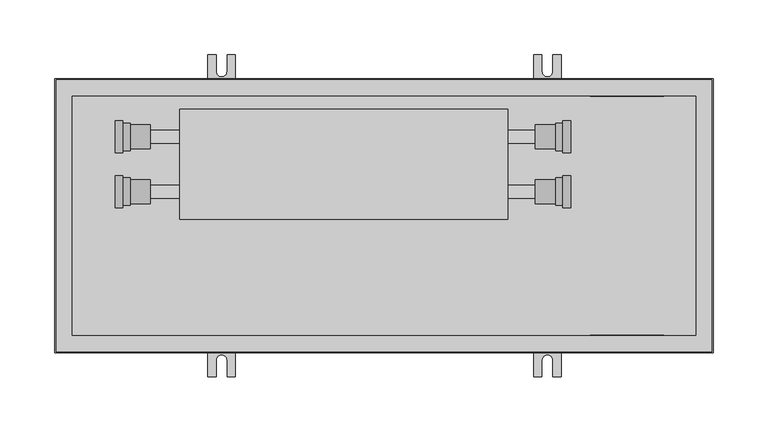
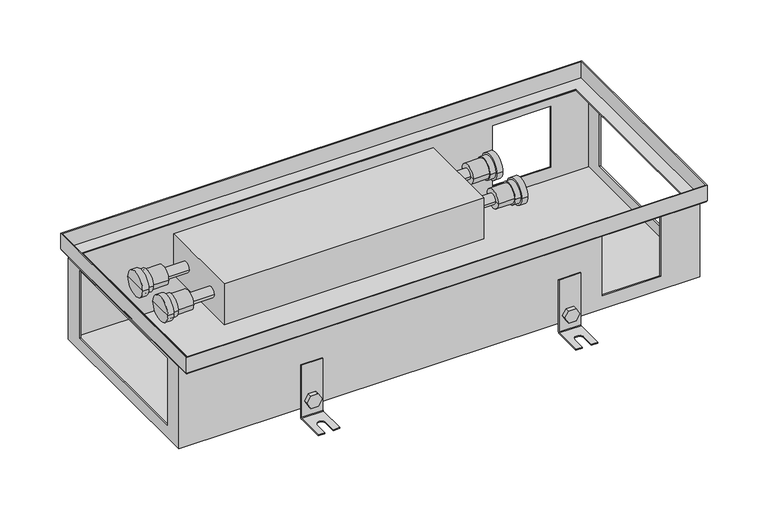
"""IFC4 building model written with IfcOpenShell, lengths in millimetres: proxy geometry, TECHNO_Конвектор встраиваемый_Usual_KVP-250_85-105-120 : KVP 250-120."""

from ifc_helpers import new_model, si_unit, point, frame, frame_2d, origin, place, context, project, spatial, polyline, circle_curve, ellipse_curve, trimmed, segment, composite_curve, outline, extrude, faceted_brep, source, transform, mapped, element, save
from ifc_brep_helpers import plane_surface, cylinder_surface, revolved_surface, advanced_brep


def mechanical_equipment_f0117539(model_context):
    return source(origin(), model_context, "Body", "SolidModel", [
        extrude(outline(composite_curve([segment(trimmed(circle_curve(frame_2d((-110.5, 449.0)), 7.5), [point((-110.5, 441.5))], [point((-110.5, 456.5))], False, "CARTESIAN"), True, "CONTINUOUS"), segment(trimmed(circle_curve(frame_2d((-110.5, 449.0)), 7.5), [point((-110.5, 456.5))], [point((-110.5, 441.5))], False, "CARTESIAN"), True, "CONTINUOUS")], self_intersect=False)), frame((0.0, 110.2, 0.0), z_axis=(0.0, 1.0, 0.0), x_axis=(0.0, 0.0, 1.0)), (0.0, 0.0, 1.0), 1.5),
        extrude(outline(polyline([(-110.5, 440.339746), (-118.0, 444.669873), (-118.0, 453.330127), (-110.5, 457.660254), (-103.0, 453.330127), (-103.0, 444.669873), (-110.5, 440.339746)])), frame((0.0, 112.9, 0.0), z_axis=(0.0, 1.0, 0.0), x_axis=(0.0, 0.0, 1.0)), (0.0, 0.0, 1.0), 5.1),
        advanced_brep(
        [(461.5, 112.9, -65.5), (461.5, 111.7, -65.5), (461.5, 111.7, -128.5), (461.5, 113.7, -130.5), (461.5, 146.7, -130.5), (461.5, 146.7, -129.3), (461.5, 113.7, -129.3), (461.5, 112.9, -128.5), (436.5, 112.9, -65.5), (436.5, 112.9, -128.5), (436.5, 113.7, -129.3), (436.5, 146.7, -129.3), (436.5, 146.7, -130.5), (436.5, 113.7, -130.5), (436.5, 111.7, -128.5), (436.5, 111.7, -65.5), (454.0, 146.7, -129.3), (454.0, 131.7, -129.3), (444.0, 131.7, -129.3), (444.0, 146.7, -129.3), (444.0, 146.7, -130.5), (454.0, 146.7, -130.5), (444.0, 131.7, -130.5), (454.0, 131.7, -130.5)],
        [
            (0, 1),
            (1, 2),
            (2, 3, circle_curve(frame((461.5, 113.7, -128.5), z_axis=(1.0, 0.0, 0.0), x_axis=(0.0, 1.0, 0.0)), 2.0)),
            (3, 4),
            (4, 5),
            (5, 6),
            (6, 7, circle_curve(frame((461.5, 113.7, -128.5), z_axis=(-1.0, 0.0, 0.0), x_axis=(0.0, 1.0, 0.0)), 0.8)),
            (7, 0),
            (8, 9),
            (9, 10, circle_curve(frame((436.5, 113.7, -128.5), z_axis=(1.0, 0.0, 0.0), x_axis=(0.0, 1.0, 0.0)), 0.8)),
            (10, 11),
            (11, 12),
            (12, 13),
            (13, 14, circle_curve(frame((436.5, 113.7, -128.5), z_axis=(-1.0, 0.0, 0.0), x_axis=(0.0, 1.0, 0.0)), 2.0)),
            (14, 15),
            (15, 8),
            (7, 9),
            (8, 0),
            (6, 10),
            (5, 16),
            (16, 17),
            (17, 18, circle_curve(frame((449.0, 131.7, -129.3), z_axis=(0.0, 0.0, -1.0), x_axis=(1.0, 0.0, 0.0)), 5.0)),
            (18, 19),
            (19, 11),
            (19, 20),
            (20, 12),
            (4, 21),
            (21, 16),
            (3, 13),
            (20, 22),
            (22, 23, circle_curve(frame((449.0, 131.7, -130.5), z_axis=(0.0, 0.0, 1.0), x_axis=(1.0, 0.0, 0.0)), 5.0)),
            (23, 21),
            (2, 14),
            (1, 15),
            (18, 22),
            (23, 17),
        ],
        [
            plane_surface(frame((461.5, 112.9, -65.5), z_axis=(1.0, 0.0, 0.0), x_axis=(0.0, 0.0, -1.0))),
            plane_surface(frame((436.5, 112.9, -65.5), z_axis=(-1.0, 0.0, 0.0), x_axis=(0.0, 0.0, 1.0))),
            plane_surface(frame((461.5, 112.9, -65.5), z_axis=(0.0, 1.0, 0.0), x_axis=(-1.0, 0.0, 0.0))),
            revolved_surface(polyline([(436.5, 114.5, -128.5), (461.5, 114.5, -128.5)]), (436.5, 113.7, -128.5), (-1.0, 0.0, 0.0)),
            plane_surface(frame((461.5, 113.7, -129.3), z_axis=(0.0, 0.0, 1.0), x_axis=(-1.0, 0.0, 0.0))),
            plane_surface(frame((461.5, 146.7, -129.3), z_axis=(0.0, 1.0, 0.0), x_axis=(-1.0, 0.0, 0.0))),
            plane_surface(frame((461.5, 146.7, -130.5), z_axis=(0.0, 0.0, -1.0), x_axis=(-1.0, 0.0, 0.0))),
            cylinder_surface(frame((436.5, 113.7, -128.5), z_axis=(1.0, 0.0, 0.0), x_axis=(0.0, 1.0, 0.0)), 2.0),
            plane_surface(frame((461.5, 111.7, -128.5), z_axis=(0.0, -1.0, 0.0), x_axis=(-1.0, 0.0, 0.0))),
            plane_surface(frame((461.5, 111.7, -65.5), z_axis=(0.0, 0.0, 1.0), x_axis=(-1.0, 0.0, 0.0))),
            plane_surface(frame((444.0, 131.7, -129.3), z_axis=(1.0, 0.0, 0.0), x_axis=(0.0, 0.0, -1.0))),
            plane_surface(frame((454.0, 146.7, -129.3), z_axis=(-1.0, 0.0, 0.0), x_axis=(0.0, 0.0, -1.0))),
            revolved_surface(polyline([(454.0, 131.7, -129.3), (454.0, 131.7, -130.5)]), (449.0, 131.7, -130.5), (0.0, 0.0, 1.0)),
        ],
        [
            (0, [[1, 2, 3, 4, 5, 6, 7, 8]]),
            (1, [[9, 10, 11, 12, 13, 14, 15, 16]]),
            (2, [[17, -9, 18, -8]]),
            (3, [[19, -10, -17, -7]]),
            (4, [[20, 21, 22, 23, 24, -11, -19, -6]]),
            (5, [[-24, 25, 26, -12]]),
            (5, [[27, 28, -20, -5]]),
            (6, [[29, -13, -26, 30, 31, 32, -27, -4]]),
            (7, [[33, -14, -29, -3]]),
            (8, [[34, -15, -33, -2]]),
            (9, [[-18, -16, -34, -1]]),
            (10, [[-30, -25, -23, 35]]),
            (11, [[-21, -28, -32, 36]]),
            (12, [[-22, -36, -31, -35]]),
        ],
    ),
        extrude(outline(composite_curve([segment(trimmed(circle_curve(frame_2d((-110.5, 449.0)), 7.5), [point((-110.5, 441.5))], [point((-110.5, 456.5))], False, "CARTESIAN"), True, "CONTINUOUS"), segment(trimmed(circle_curve(frame_2d((-110.5, 449.0)), 7.5), [point((-110.5, 456.5))], [point((-110.5, 441.5))], False, "CARTESIAN"), True, "CONTINUOUS")], self_intersect=False)), frame((0.0, -111.7, 0.0), z_axis=(0.0, 1.0, 0.0), x_axis=(0.0, 0.0, 1.0)), (0.0, 0.0, 1.0), 1.5),
        extrude(outline(polyline([(-110.5, 440.339746), (-118.0, 444.669873), (-118.0, 453.330127), (-110.5, 457.660254), (-103.0, 453.330127), (-103.0, 444.669873), (-110.5, 440.339746)])), frame((0.0, -118.0, 0.0), z_axis=(0.0, 1.0, 0.0), x_axis=(0.0, 0.0, 1.0)), (0.0, 0.0, 1.0), 5.1),
        advanced_brep(
        [(461.5, -112.9, -65.5), (461.5, -112.9, -128.5), (461.5, -113.7, -129.3), (461.5, -146.7, -129.3), (461.5, -146.7, -130.5), (461.5, -113.7, -130.5), (461.5, -111.7, -128.5), (461.5, -111.7, -65.5), (436.5, -112.9, -65.5), (436.5, -111.7, -65.5), (436.5, -111.7, -128.5), (436.5, -113.7, -130.5), (436.5, -146.7, -130.5), (436.5, -146.7, -129.3), (436.5, -113.7, -129.3), (436.5, -112.9, -128.5), (444.0, -146.7, -129.3), (444.0, -131.7, -129.3), (454.0, -131.7, -129.3), (454.0, -146.7, -129.3), (454.0, -146.7, -130.5), (444.0, -146.7, -130.5), (454.0, -131.7, -130.5), (444.0, -131.7, -130.5)],
        [
            (0, 1),
            (1, 2, circle_curve(frame((461.5, -113.7, -128.5), z_axis=(-1.0, 0.0, 0.0), x_axis=(0.0, -1.0, 0.0)), 0.8)),
            (2, 3),
            (3, 4),
            (4, 5),
            (5, 6, circle_curve(frame((461.5, -113.7, -128.5), z_axis=(1.0, 0.0, 0.0), x_axis=(0.0, -1.0, 0.0)), 2.0)),
            (6, 7),
            (7, 0),
            (8, 9),
            (9, 10),
            (10, 11, circle_curve(frame((436.5, -113.7, -128.5), z_axis=(-1.0, 0.0, 0.0), x_axis=(0.0, -1.0, 0.0)), 2.0)),
            (11, 12),
            (12, 13),
            (13, 14),
            (14, 15, circle_curve(frame((436.5, -113.7, -128.5), z_axis=(1.0, 0.0, 0.0), x_axis=(0.0, -1.0, 0.0)), 0.8)),
            (15, 8),
            (0, 8),
            (15, 1),
            (14, 2),
            (13, 16),
            (16, 17),
            (17, 18, circle_curve(frame((449.0, -131.7, -129.3), z_axis=(0.0, 0.0, -1.0), x_axis=(1.0, 0.0, 0.0)), 5.0)),
            (18, 19),
            (19, 3),
            (19, 20),
            (20, 4),
            (12, 21),
            (21, 16),
            (20, 22),
            (22, 23, circle_curve(frame((449.0, -131.7, -130.5), z_axis=(0.0, 0.0, 1.0), x_axis=(1.0, 0.0, 0.0)), 5.0)),
            (23, 21),
            (11, 5),
            (10, 6),
            (9, 7),
            (23, 17),
            (18, 22),
        ],
        [
            plane_surface(frame((461.5, -112.9, -65.5), z_axis=(1.0, 0.0, 0.0), x_axis=(0.0, 0.0, -1.0))),
            plane_surface(frame((436.5, -112.9, -65.5), z_axis=(-1.0, 0.0, 0.0), x_axis=(0.0, 0.0, 1.0))),
            plane_surface(frame((461.5, -112.9, -65.5), z_axis=(0.0, -1.0, 0.0), x_axis=(-1.0, 0.0, 0.0))),
            revolved_surface(polyline([(436.5, -114.5, -128.5), (461.5, -114.5, -128.5)]), (436.5, -113.7, -128.5), (-1.0, 0.0, 0.0)),
            plane_surface(frame((461.5, -113.7, -129.3), z_axis=(0.0, 0.0, 1.0), x_axis=(-1.0, 0.0, 0.0))),
            plane_surface(frame((461.5, -146.7, -129.3), z_axis=(0.0, -1.0, 0.0), x_axis=(-1.0, 0.0, 0.0))),
            plane_surface(frame((461.5, -146.7, -130.5), z_axis=(0.0, 0.0, -1.0), x_axis=(-1.0, 0.0, 0.0))),
            cylinder_surface(frame((436.5, -113.7, -128.5), z_axis=(1.0, 0.0, 0.0), x_axis=(0.0, -1.0, 0.0)), 2.0),
            plane_surface(frame((461.5, -111.7, -128.5), z_axis=(0.0, 1.0, 0.0), x_axis=(-1.0, 0.0, 0.0))),
            plane_surface(frame((461.5, -111.7, -65.5), z_axis=(0.0, 0.0, 1.0), x_axis=(-1.0, 0.0, 0.0))),
            plane_surface(frame((444.0, -131.7, -129.3), z_axis=(1.0, 0.0, 0.0), x_axis=(0.0, 0.0, -1.0))),
            plane_surface(frame((454.0, -146.7, -129.3), z_axis=(-1.0, 0.0, 0.0), x_axis=(0.0, 0.0, -1.0))),
            revolved_surface(polyline([(454.0, -131.7, -129.3), (454.0, -131.7, -130.5)]), (449.0, -131.7, -130.5), (0.0, 0.0, 1.0)),
        ],
        [
            (0, [[1, 2, 3, 4, 5, 6, 7, 8]]),
            (1, [[9, 10, 11, 12, 13, 14, 15, 16]]),
            (2, [[-1, 17, -16, 18]]),
            (3, [[-2, -18, -15, 19]]),
            (4, [[-3, -19, -14, 20, 21, 22, 23, 24]]),
            (5, [[-4, -24, 25, 26]]),
            (5, [[-13, 27, 28, -20]]),
            (6, [[-5, -26, 29, 30, 31, -27, -12, 32]]),
            (7, [[-6, -32, -11, 33]]),
            (8, [[-7, -33, -10, 34]]),
            (9, [[-8, -34, -9, -17]]),
            (10, [[35, -21, -28, -31]]),
            (11, [[36, -29, -25, -23]]),
            (12, [[-35, -30, -36, -22]]),
        ],
    ),
        extrude(outline(composite_curve([segment(trimmed(circle_curve(frame_2d((-110.5, 152.0)), 7.5), [point((-110.5, 144.5))], [point((-110.5, 159.5))], False, "CARTESIAN"), True, "CONTINUOUS"), segment(trimmed(circle_curve(frame_2d((-110.5, 152.0)), 7.5), [point((-110.5, 159.5))], [point((-110.5, 144.5))], False, "CARTESIAN"), True, "CONTINUOUS")], self_intersect=False)), frame((0.0, 110.2, 0.0), z_axis=(0.0, 1.0, 0.0), x_axis=(0.0, 0.0, 1.0)), (0.0, 0.0, 1.0), 1.5),
        extrude(outline(polyline([(-110.5, 143.339746), (-118.0, 147.669873), (-118.0, 156.330127), (-110.5, 160.660254), (-103.0, 156.330127), (-103.0, 147.669873), (-110.5, 143.339746)])), frame((0.0, 112.9, 0.0), z_axis=(0.0, 1.0, 0.0), x_axis=(0.0, 0.0, 1.0)), (0.0, 0.0, 1.0), 5.1),
        advanced_brep(
        [(164.5, 112.9, -65.5), (164.5, 111.7, -65.5), (164.5, 111.7, -128.5), (164.5, 113.7, -130.5), (164.5, 146.7, -130.5), (164.5, 146.7, -129.3), (164.5, 113.7, -129.3), (164.5, 112.9, -128.5), (139.5, 112.9, -65.5), (139.5, 112.9, -128.5), (139.5, 113.7, -129.3), (139.5, 146.7, -129.3), (139.5, 146.7, -130.5), (139.5, 113.7, -130.5), (139.5, 111.7, -128.5), (139.5, 111.7, -65.5), (157.0, 146.7, -129.3), (157.0, 131.7, -129.3), (147.0, 131.7, -129.3), (147.0, 146.7, -129.3), (147.0, 146.7, -130.5), (157.0, 146.7, -130.5), (147.0, 131.7, -130.5), (157.0, 131.7, -130.5)],
        [
            (0, 1),
            (1, 2),
            (2, 3, circle_curve(frame((164.5, 113.7, -128.5), z_axis=(1.0, 0.0, 0.0), x_axis=(0.0, 1.0, 0.0)), 2.0)),
            (3, 4),
            (4, 5),
            (5, 6),
            (6, 7, circle_curve(frame((164.5, 113.7, -128.5), z_axis=(-1.0, 0.0, 0.0), x_axis=(0.0, 1.0, 0.0)), 0.8)),
            (7, 0),
            (8, 9),
            (9, 10, circle_curve(frame((139.5, 113.7, -128.5), z_axis=(1.0, 0.0, 0.0), x_axis=(0.0, 1.0, 0.0)), 0.8)),
            (10, 11),
            (11, 12),
            (12, 13),
            (13, 14, circle_curve(frame((139.5, 113.7, -128.5), z_axis=(-1.0, 0.0, 0.0), x_axis=(0.0, 1.0, 0.0)), 2.0)),
            (14, 15),
            (15, 8),
            (7, 9),
            (8, 0),
            (6, 10),
            (5, 16),
            (16, 17),
            (17, 18, circle_curve(frame((152.0, 131.7, -129.3), z_axis=(0.0, 0.0, -1.0), x_axis=(1.0, 0.0, 0.0)), 5.0)),
            (18, 19),
            (19, 11),
            (19, 20),
            (20, 12),
            (4, 21),
            (21, 16),
            (3, 13),
            (20, 22),
            (22, 23, circle_curve(frame((152.0, 131.7, -130.5), z_axis=(0.0, 0.0, 1.0), x_axis=(1.0, 0.0, 0.0)), 5.0)),
            (23, 21),
            (2, 14),
            (1, 15),
            (18, 22),
            (23, 17),
        ],
        [
            plane_surface(frame((164.5, 112.9, -65.5), z_axis=(1.0, 0.0, 0.0), x_axis=(0.0, 0.0, -1.0))),
            plane_surface(frame((139.5, 112.9, -65.5), z_axis=(-1.0, 0.0, 0.0), x_axis=(0.0, 0.0, 1.0))),
            plane_surface(frame((164.5, 112.9, -65.5), z_axis=(0.0, 1.0, 0.0), x_axis=(-1.0, 0.0, 0.0))),
            revolved_surface(polyline([(139.5, 114.5, -128.5), (164.5, 114.5, -128.5)]), (139.5, 113.7, -128.5), (-1.0, 0.0, 0.0)),
            plane_surface(frame((164.5, 113.7, -129.3), z_axis=(0.0, 0.0, 1.0), x_axis=(-1.0, 0.0, 0.0))),
            plane_surface(frame((164.5, 146.7, -129.3), z_axis=(0.0, 1.0, 0.0), x_axis=(-1.0, 0.0, 0.0))),
            plane_surface(frame((164.5, 146.7, -130.5), z_axis=(0.0, 0.0, -1.0), x_axis=(-1.0, 0.0, 0.0))),
            cylinder_surface(frame((139.5, 113.7, -128.5), z_axis=(1.0, 0.0, 0.0), x_axis=(0.0, 1.0, 0.0)), 2.0),
            plane_surface(frame((164.5, 111.7, -128.5), z_axis=(0.0, -1.0, 0.0), x_axis=(-1.0, 0.0, 0.0))),
            plane_surface(frame((164.5, 111.7, -65.5), z_axis=(0.0, 0.0, 1.0), x_axis=(-1.0, 0.0, 0.0))),
            plane_surface(frame((147.0, 131.7, -129.3), z_axis=(1.0, 0.0, 0.0), x_axis=(0.0, 0.0, -1.0))),
            plane_surface(frame((157.0, 146.7, -129.3), z_axis=(-1.0, 0.0, 0.0), x_axis=(0.0, 0.0, -1.0))),
            revolved_surface(polyline([(157.0, 131.7, -129.3), (157.0, 131.7, -130.5)]), (152.0, 131.7, -130.5), (0.0, 0.0, 1.0)),
        ],
        [
            (0, [[1, 2, 3, 4, 5, 6, 7, 8]]),
            (1, [[9, 10, 11, 12, 13, 14, 15, 16]]),
            (2, [[17, -9, 18, -8]]),
            (3, [[19, -10, -17, -7]]),
            (4, [[20, 21, 22, 23, 24, -11, -19, -6]]),
            (5, [[-24, 25, 26, -12]]),
            (5, [[27, 28, -20, -5]]),
            (6, [[29, -13, -26, 30, 31, 32, -27, -4]]),
            (7, [[33, -14, -29, -3]]),
            (8, [[34, -15, -33, -2]]),
            (9, [[-18, -16, -34, -1]]),
            (10, [[-30, -25, -23, 35]]),
            (11, [[-21, -28, -32, 36]]),
            (12, [[-22, -36, -31, -35]]),
        ],
    ),
        extrude(outline(composite_curve([segment(trimmed(circle_curve(frame_2d((-110.5, 152.0)), 7.5), [point((-110.5, 144.5))], [point((-110.5, 159.5))], False, "CARTESIAN"), True, "CONTINUOUS"), segment(trimmed(circle_curve(frame_2d((-110.5, 152.0)), 7.5), [point((-110.5, 159.5))], [point((-110.5, 144.5))], False, "CARTESIAN"), True, "CONTINUOUS")], self_intersect=False)), frame((0.0, -111.7, 0.0), z_axis=(0.0, 1.0, 0.0), x_axis=(0.0, 0.0, 1.0)), (0.0, 0.0, 1.0), 1.5),
        extrude(outline(polyline([(-110.5, 143.339746), (-118.0, 147.669873), (-118.0, 156.330127), (-110.5, 160.660254), (-103.0, 156.330127), (-103.0, 147.669873), (-110.5, 143.339746)])), frame((0.0, -118.0, 0.0), z_axis=(0.0, 1.0, 0.0), x_axis=(0.0, 0.0, 1.0)), (0.0, 0.0, 1.0), 5.1),
        advanced_brep(
        [(164.5, -112.9, -65.5), (164.5, -112.9, -128.5), (164.5, -113.7, -129.3), (164.5, -146.7, -129.3), (164.5, -146.7, -130.5), (164.5, -113.7, -130.5), (164.5, -111.7, -128.5), (164.5, -111.7, -65.5), (139.5, -112.9, -65.5), (139.5, -111.7, -65.5), (139.5, -111.7, -128.5), (139.5, -113.7, -130.5), (139.5, -146.7, -130.5), (139.5, -146.7, -129.3), (139.5, -113.7, -129.3), (139.5, -112.9, -128.5), (147.0, -146.7, -129.3), (147.0, -131.7, -129.3), (157.0, -131.7, -129.3), (157.0, -146.7, -129.3), (157.0, -146.7, -130.5), (147.0, -146.7, -130.5), (157.0, -131.7, -130.5), (147.0, -131.7, -130.5)],
        [
            (0, 1),
            (1, 2, circle_curve(frame((164.5, -113.7, -128.5), z_axis=(-1.0, 0.0, 0.0), x_axis=(0.0, -1.0, 0.0)), 0.8)),
            (2, 3),
            (3, 4),
            (4, 5),
            (5, 6, circle_curve(frame((164.5, -113.7, -128.5), z_axis=(1.0, 0.0, 0.0), x_axis=(0.0, -1.0, 0.0)), 2.0)),
            (6, 7),
            (7, 0),
            (8, 9),
            (9, 10),
            (10, 11, circle_curve(frame((139.5, -113.7, -128.5), z_axis=(-1.0, 0.0, 0.0), x_axis=(0.0, -1.0, 0.0)), 2.0)),
            (11, 12),
            (12, 13),
            (13, 14),
            (14, 15, circle_curve(frame((139.5, -113.7, -128.5), z_axis=(1.0, 0.0, 0.0), x_axis=(0.0, -1.0, 0.0)), 0.8)),
            (15, 8),
            (0, 8),
            (15, 1),
            (14, 2),
            (13, 16),
            (16, 17),
            (17, 18, circle_curve(frame((152.0, -131.7, -129.3), z_axis=(0.0, 0.0, -1.0), x_axis=(1.0, 0.0, 0.0)), 5.0)),
            (18, 19),
            (19, 3),
            (19, 20),
            (20, 4),
            (12, 21),
            (21, 16),
            (20, 22),
            (22, 23, circle_curve(frame((152.0, -131.7, -130.5), z_axis=(0.0, 0.0, 1.0), x_axis=(1.0, 0.0, 0.0)), 5.0)),
            (23, 21),
            (11, 5),
            (10, 6),
            (9, 7),
            (23, 17),
            (18, 22),
        ],
        [
            plane_surface(frame((164.5, -112.9, -65.5), z_axis=(1.0, 0.0, 0.0), x_axis=(0.0, 0.0, -1.0))),
            plane_surface(frame((139.5, -112.9, -65.5), z_axis=(-1.0, 0.0, 0.0), x_axis=(0.0, 0.0, 1.0))),
            plane_surface(frame((164.5, -112.9, -65.5), z_axis=(0.0, -1.0, 0.0), x_axis=(-1.0, 0.0, 0.0))),
            revolved_surface(polyline([(139.5, -114.5, -128.5), (164.5, -114.5, -128.5)]), (139.5, -113.7, -128.5), (-1.0, 0.0, 0.0)),
            plane_surface(frame((164.5, -113.7, -129.3), z_axis=(0.0, 0.0, 1.0), x_axis=(-1.0, 0.0, 0.0))),
            plane_surface(frame((164.5, -146.7, -129.3), z_axis=(0.0, -1.0, 0.0), x_axis=(-1.0, 0.0, 0.0))),
            plane_surface(frame((164.5, -146.7, -130.5), z_axis=(0.0, 0.0, -1.0), x_axis=(-1.0, 0.0, 0.0))),
            cylinder_surface(frame((139.5, -113.7, -128.5), z_axis=(1.0, 0.0, 0.0), x_axis=(0.0, -1.0, 0.0)), 2.0),
            plane_surface(frame((164.5, -111.7, -128.5), z_axis=(0.0, 1.0, 0.0), x_axis=(-1.0, 0.0, 0.0))),
            plane_surface(frame((164.5, -111.7, -65.5), z_axis=(0.0, 0.0, 1.0), x_axis=(-1.0, 0.0, 0.0))),
            plane_surface(frame((147.0, -131.7, -129.3), z_axis=(1.0, 0.0, 0.0), x_axis=(0.0, 0.0, -1.0))),
            plane_surface(frame((157.0, -146.7, -129.3), z_axis=(-1.0, 0.0, 0.0), x_axis=(0.0, 0.0, -1.0))),
            revolved_surface(polyline([(157.0, -131.7, -129.3), (157.0, -131.7, -130.5)]), (152.0, -131.7, -130.5), (0.0, 0.0, 1.0)),
        ],
        [
            (0, [[1, 2, 3, 4, 5, 6, 7, 8]]),
            (1, [[9, 10, 11, 12, 13, 14, 15, 16]]),
            (2, [[-1, 17, -16, 18]]),
            (3, [[-2, -18, -15, 19]]),
            (4, [[-3, -19, -14, 20, 21, 22, 23, 24]]),
            (5, [[-4, -24, 25, 26]]),
            (5, [[-13, 27, 28, -20]]),
            (6, [[-5, -26, 29, 30, 31, -27, -12, 32]]),
            (7, [[-6, -32, -11, 33]]),
            (8, [[-7, -33, -10, 34]]),
            (9, [[-8, -34, -9, -17]]),
            (10, [[35, -21, -28, -31]]),
            (11, [[36, -29, -25, -23]]),
            (12, [[-35, -30, -36, -22]]),
        ],
    ),
        advanced_brep(
        [(87.0, 61.0, -48.5), (87.0, 83.0, -48.5), (87.0, 72.0, -48.5), (68.5, 61.0, -48.5), (68.5, 83.0, -48.5), (68.5, 59.5, -48.5), (68.5, 84.5, -48.5), (62.0, 59.5, -48.5), (62.0, 84.5, -48.5), (62.0, 57.3, -48.5), (62.0, 86.7, -48.5), (55.0, 57.3, -48.5), (55.0, 86.7, -48.5), (55.0, 72.0, -48.5)],
        [
            (0, 1, circle_curve(frame((87.0, 72.0, -48.5), z_axis=(1.0, 0.0, 0.0), x_axis=(0.0, 1.0, 0.0)), 11.0)),
            (1, 2),
            (2, 0),
            (1, 0, circle_curve(frame((87.0, 72.0, -48.5), z_axis=(1.0, 0.0, 0.0), x_axis=(0.0, 1.0, 0.0)), 11.0)),
            (3, 4, circle_curve(frame((68.5, 72.0, -48.5), z_axis=(1.0, 0.0, 0.0), x_axis=(0.0, 1.0, 0.0)), 11.0)),
            (4, 1),
            (0, 3),
            (4, 3, circle_curve(frame((68.5, 72.0, -48.5), z_axis=(1.0, 0.0, 0.0), x_axis=(0.0, 1.0, 0.0)), 11.0)),
            (5, 6, circle_curve(frame((68.5, 72.0, -48.5), z_axis=(1.0, 0.0, 0.0), x_axis=(0.0, 1.0, 0.0)), 12.5)),
            (6, 4),
            (3, 5),
            (6, 5, circle_curve(frame((68.5, 72.0, -48.5), z_axis=(1.0, 0.0, 0.0), x_axis=(0.0, 1.0, 0.0)), 12.5)),
            (7, 8, circle_curve(frame((62.0, 72.0, -48.5), z_axis=(1.0, 0.0, 0.0), x_axis=(0.0, 1.0, 0.0)), 12.5)),
            (8, 6),
            (5, 7),
            (8, 7, circle_curve(frame((62.0, 72.0, -48.5), z_axis=(1.0, 0.0, 0.0), x_axis=(0.0, 1.0, 0.0)), 12.5)),
            (9, 10, circle_curve(frame((62.0, 72.0, -48.5), z_axis=(1.0, 0.0, 0.0), x_axis=(0.0, 1.0, 0.0)), 14.7)),
            (10, 8),
            (7, 9),
            (10, 9, circle_curve(frame((62.0, 72.0, -48.5), z_axis=(1.0, 0.0, 0.0), x_axis=(0.0, 1.0, 0.0)), 14.7)),
            (11, 12, circle_curve(frame((55.0, 72.0, -48.5), z_axis=(1.0, 0.0, 0.0), x_axis=(0.0, 1.0, 0.0)), 14.7)),
            (12, 10),
            (9, 11),
            (12, 11, circle_curve(frame((55.0, 72.0, -48.5), z_axis=(1.0, 0.0, 0.0), x_axis=(0.0, 1.0, 0.0)), 14.7)),
            (13, 12),
            (11, 13),
        ],
        [
            plane_surface(frame((87.0, 72.0, -48.5), z_axis=(1.0, 0.0, 0.0), x_axis=(0.0, 1.0, 0.0))),
            cylinder_surface(frame((45.0, 72.0, -48.5), z_axis=(-1.0, 0.0, 0.0), x_axis=(0.0, 1.0, 0.0)), 11.0),
            plane_surface(frame((68.5, 72.0, -48.5), z_axis=(1.0, 0.0, 0.0), x_axis=(0.0, 1.0, 0.0))),
            cylinder_surface(frame((45.0, 72.0, -48.5), z_axis=(-1.0, 0.0, 0.0), x_axis=(0.0, 1.0, 0.0)), 12.5),
            plane_surface(frame((62.0, 72.0, -48.5), z_axis=(1.0, 0.0, 0.0), x_axis=(0.0, 1.0, 0.0))),
            cylinder_surface(frame((45.0, 72.0, -48.5), z_axis=(-1.0, 0.0, 0.0), x_axis=(0.0, 1.0, 0.0)), 14.7),
            plane_surface(frame((55.0, 72.0, -48.5), z_axis=(-1.0, 0.0, 0.0), x_axis=(0.0, 1.0, 0.0))),
        ],
        [
            (0, [[1, 2, 3]]),
            (0, [[4, -3, -2]]),
            (1, [[5, 6, -1, 7]]),
            (1, [[8, -7, -4, -6]]),
            (2, [[9, 10, -5, 11]]),
            (2, [[12, -11, -8, -10]]),
            (3, [[13, 14, -9, 15]]),
            (3, [[16, -15, -12, -14]]),
            (4, [[17, 18, -13, 19]]),
            (4, [[20, -19, -16, -18]]),
            (5, [[21, 22, -17, 23]]),
            (5, [[24, -23, -20, -22]]),
            (6, [[25, -21, 26]]),
            (6, [[-26, -24, -25]]),
        ],
    ),
        advanced_brep(
        [(87.0, 11.0, -48.5), (87.0, 33.0, -48.5), (87.0, 22.0, -48.5), (68.5, 11.0, -48.5), (68.5, 33.0, -48.5), (68.5, 9.5, -48.5), (68.5, 34.5, -48.5), (62.0, 9.5, -48.5), (62.0, 34.5, -48.5), (62.0, 7.3, -48.5), (62.0, 36.7, -48.5), (55.0, 7.3, -48.5), (55.0, 36.7, -48.5), (55.0, 22.0, -48.5)],
        [
            (0, 1, circle_curve(frame((87.0, 22.0, -48.5), z_axis=(1.0, 0.0, 0.0), x_axis=(0.0, 1.0, 0.0)), 11.0)),
            (1, 2),
            (2, 0),
            (1, 0, circle_curve(frame((87.0, 22.0, -48.5), z_axis=(1.0, 0.0, 0.0), x_axis=(0.0, 1.0, 0.0)), 11.0)),
            (3, 4, circle_curve(frame((68.5, 22.0, -48.5), z_axis=(1.0, 0.0, 0.0), x_axis=(0.0, 1.0, 0.0)), 11.0)),
            (4, 1),
            (0, 3),
            (4, 3, circle_curve(frame((68.5, 22.0, -48.5), z_axis=(1.0, 0.0, 0.0), x_axis=(0.0, 1.0, 0.0)), 11.0)),
            (5, 6, circle_curve(frame((68.5, 22.0, -48.5), z_axis=(1.0, 0.0, 0.0), x_axis=(0.0, 1.0, 0.0)), 12.5)),
            (6, 4),
            (3, 5),
            (6, 5, circle_curve(frame((68.5, 22.0, -48.5), z_axis=(1.0, 0.0, 0.0), x_axis=(0.0, 1.0, 0.0)), 12.5)),
            (7, 8, circle_curve(frame((62.0, 22.0, -48.5), z_axis=(1.0, 0.0, 0.0), x_axis=(0.0, 1.0, 0.0)), 12.5)),
            (8, 6),
            (5, 7),
            (8, 7, circle_curve(frame((62.0, 22.0, -48.5), z_axis=(1.0, 0.0, 0.0), x_axis=(0.0, 1.0, 0.0)), 12.5)),
            (9, 10, circle_curve(frame((62.0, 22.0, -48.5), z_axis=(1.0, 0.0, 0.0), x_axis=(0.0, 1.0, 0.0)), 14.7)),
            (10, 8),
            (7, 9),
            (10, 9, circle_curve(frame((62.0, 22.0, -48.5), z_axis=(1.0, 0.0, 0.0), x_axis=(0.0, 1.0, 0.0)), 14.7)),
            (11, 12, circle_curve(frame((55.0, 22.0, -48.5), z_axis=(1.0, 0.0, 0.0), x_axis=(0.0, 1.0, 0.0)), 14.7)),
            (12, 10),
            (9, 11),
            (12, 11, circle_curve(frame((55.0, 22.0, -48.5), z_axis=(1.0, 0.0, 0.0), x_axis=(0.0, 1.0, 0.0)), 14.7)),
            (13, 12),
            (11, 13),
        ],
        [
            plane_surface(frame((87.0, 22.0, -48.5), z_axis=(1.0, 0.0, 0.0), x_axis=(0.0, 1.0, 0.0))),
            cylinder_surface(frame((45.0, 22.0, -48.5), z_axis=(-1.0, 0.0, 0.0), x_axis=(0.0, 1.0, 0.0)), 11.0),
            plane_surface(frame((68.5, 22.0, -48.5), z_axis=(1.0, 0.0, 0.0), x_axis=(0.0, 1.0, 0.0))),
            cylinder_surface(frame((45.0, 22.0, -48.5), z_axis=(-1.0, 0.0, 0.0), x_axis=(0.0, 1.0, 0.0)), 12.5),
            plane_surface(frame((62.0, 22.0, -48.5), z_axis=(1.0, 0.0, 0.0), x_axis=(0.0, 1.0, 0.0))),
            cylinder_surface(frame((45.0, 22.0, -48.5), z_axis=(-1.0, 0.0, 0.0), x_axis=(0.0, 1.0, 0.0)), 14.7),
            plane_surface(frame((55.0, 22.0, -48.5), z_axis=(-1.0, 0.0, 0.0), x_axis=(0.0, 1.0, 0.0))),
        ],
        [
            (0, [[1, 2, 3]]),
            (0, [[4, -3, -2]]),
            (1, [[5, 6, -1, 7]]),
            (1, [[8, -7, -4, -6]]),
            (2, [[9, 10, -5, 11]]),
            (2, [[12, -11, -8, -10]]),
            (3, [[13, 14, -9, 15]]),
            (3, [[16, -15, -12, -14]]),
            (4, [[17, 18, -13, 19]]),
            (4, [[20, -19, -16, -18]]),
            (5, [[21, 22, -17, 23]]),
            (5, [[24, -23, -20, -22]]),
            (6, [[25, -21, 26]]),
            (6, [[-26, -24, -25]]),
        ],
    ),
        extrude(outline(polyline([(413.0, 97.0), (413.0, -3.0), (114.0, -3.0), (114.0, 97.0), (413.0, 97.0)])), frame((0.0, 0.0, -73.5), z_axis=(0.0, 0.0, 1.0), x_axis=(1.0, 0.0, 0.0)), (0.0, 0.0, 1.0), 50.0),
        advanced_brep(
        [(438.0, 72.0, -48.5), (438.0, 83.0, -48.5), (438.0, 61.0, -48.5), (456.5, 83.0, -48.5), (456.5, 61.0, -48.5), (456.5, 84.5, -48.5), (456.5, 59.5, -48.5), (463.0, 84.5, -48.5), (463.0, 59.5, -48.5), (463.0, 86.7, -48.5), (463.0, 57.3, -48.5), (470.0, 86.7, -48.5), (470.0, 57.3, -48.5), (470.0, 72.0, -48.5)],
        [
            (0, 1),
            (1, 2, circle_curve(frame((438.0, 72.0, -48.5), z_axis=(-1.0, 0.0, 0.0), x_axis=(0.0, 1.0, 0.0)), 11.0)),
            (2, 0),
            (2, 1, circle_curve(frame((438.0, 72.0, -48.5), z_axis=(-1.0, 0.0, 0.0), x_axis=(0.0, 1.0, 0.0)), 11.0)),
            (1, 3),
            (3, 4, circle_curve(frame((456.5, 72.0, -48.5), z_axis=(-1.0, 0.0, 0.0), x_axis=(0.0, 1.0, 0.0)), 11.0)),
            (4, 2),
            (4, 3, circle_curve(frame((456.5, 72.0, -48.5), z_axis=(-1.0, 0.0, 0.0), x_axis=(0.0, 1.0, 0.0)), 11.0)),
            (3, 5),
            (5, 6, circle_curve(frame((456.5, 72.0, -48.5), z_axis=(-1.0, 0.0, 0.0), x_axis=(0.0, 1.0, 0.0)), 12.5)),
            (6, 4),
            (6, 5, circle_curve(frame((456.5, 72.0, -48.5), z_axis=(-1.0, 0.0, 0.0), x_axis=(0.0, 1.0, 0.0)), 12.5)),
            (5, 7),
            (7, 8, circle_curve(frame((463.0, 72.0, -48.5), z_axis=(-1.0, 0.0, 0.0), x_axis=(0.0, 1.0, 0.0)), 12.5)),
            (8, 6),
            (8, 7, circle_curve(frame((463.0, 72.0, -48.5), z_axis=(-1.0, 0.0, 0.0), x_axis=(0.0, 1.0, 0.0)), 12.5)),
            (7, 9),
            (9, 10, circle_curve(frame((463.0, 72.0, -48.5), z_axis=(-1.0, 0.0, 0.0), x_axis=(0.0, 1.0, 0.0)), 14.7)),
            (10, 8),
            (10, 9, circle_curve(frame((463.0, 72.0, -48.5), z_axis=(-1.0, 0.0, 0.0), x_axis=(0.0, 1.0, 0.0)), 14.7)),
            (9, 11),
            (11, 12, circle_curve(frame((470.0, 72.0, -48.5), z_axis=(-1.0, 0.0, 0.0), x_axis=(0.0, 1.0, 0.0)), 14.7)),
            (12, 10),
            (12, 11, circle_curve(frame((470.0, 72.0, -48.5), z_axis=(-1.0, 0.0, 0.0), x_axis=(0.0, 1.0, 0.0)), 14.7)),
            (11, 13),
            (13, 12),
        ],
        [
            plane_surface(frame((438.0, 72.0, -48.5), z_axis=(-1.0, 0.0, 0.0), x_axis=(0.0, 1.0, 0.0))),
            cylinder_surface(frame((470.0, 72.0, -48.5), z_axis=(-1.0, 0.0, 0.0), x_axis=(0.0, 1.0, 0.0)), 11.0),
            plane_surface(frame((456.5, 72.0, -48.5), z_axis=(-1.0, 0.0, 0.0), x_axis=(0.0, 1.0, 0.0))),
            cylinder_surface(frame((470.0, 72.0, -48.5), z_axis=(-1.0, 0.0, 0.0), x_axis=(0.0, 1.0, 0.0)), 12.5),
            plane_surface(frame((463.0, 72.0, -48.5), z_axis=(-1.0, 0.0, 0.0), x_axis=(0.0, 1.0, 0.0))),
            cylinder_surface(frame((470.0, 72.0, -48.5), z_axis=(-1.0, 0.0, 0.0), x_axis=(0.0, 1.0, 0.0)), 14.7),
            plane_surface(frame((470.0, 72.0, -48.5), z_axis=(1.0, 0.0, 0.0), x_axis=(0.0, 1.0, 0.0))),
        ],
        [
            (0, [[1, 2, 3]]),
            (0, [[-3, 4, -1]]),
            (1, [[-2, 5, 6, 7]]),
            (1, [[-4, -7, 8, -5]]),
            (2, [[-6, 9, 10, 11]]),
            (2, [[-8, -11, 12, -9]]),
            (3, [[-10, 13, 14, 15]]),
            (3, [[-12, -15, 16, -13]]),
            (4, [[-14, 17, 18, 19]]),
            (4, [[-16, -19, 20, -17]]),
            (5, [[-18, 21, 22, 23]]),
            (5, [[-20, -23, 24, -21]]),
            (6, [[-22, 25, 26]]),
            (6, [[-24, -26, -25]]),
        ],
    ),
        advanced_brep(
        [(438.0, 22.0, -48.5), (438.0, 33.0, -48.5), (438.0, 11.0, -48.5), (456.5, 33.0, -48.5), (456.5, 11.0, -48.5), (456.5, 34.5, -48.5), (456.5, 9.5, -48.5), (463.0, 34.5, -48.5), (463.0, 9.5, -48.5), (463.0, 36.7, -48.5), (463.0, 7.3, -48.5), (470.0, 36.7, -48.5), (470.0, 7.3, -48.5), (470.0, 22.0, -48.5)],
        [
            (0, 1),
            (1, 2, circle_curve(frame((438.0, 22.0, -48.5), z_axis=(-1.0, 0.0, 0.0), x_axis=(0.0, 1.0, 0.0)), 11.0)),
            (2, 0),
            (2, 1, circle_curve(frame((438.0, 22.0, -48.5), z_axis=(-1.0, 0.0, 0.0), x_axis=(0.0, 1.0, 0.0)), 11.0)),
            (1, 3),
            (3, 4, circle_curve(frame((456.5, 22.0, -48.5), z_axis=(-1.0, 0.0, 0.0), x_axis=(0.0, 1.0, 0.0)), 11.0)),
            (4, 2),
            (4, 3, circle_curve(frame((456.5, 22.0, -48.5), z_axis=(-1.0, 0.0, 0.0), x_axis=(0.0, 1.0, 0.0)), 11.0)),
            (3, 5),
            (5, 6, circle_curve(frame((456.5, 22.0, -48.5), z_axis=(-1.0, 0.0, 0.0), x_axis=(0.0, 1.0, 0.0)), 12.5)),
            (6, 4),
            (6, 5, circle_curve(frame((456.5, 22.0, -48.5), z_axis=(-1.0, 0.0, 0.0), x_axis=(0.0, 1.0, 0.0)), 12.5)),
            (5, 7),
            (7, 8, circle_curve(frame((463.0, 22.0, -48.5), z_axis=(-1.0, 0.0, 0.0), x_axis=(0.0, 1.0, 0.0)), 12.5)),
            (8, 6),
            (8, 7, circle_curve(frame((463.0, 22.0, -48.5), z_axis=(-1.0, 0.0, 0.0), x_axis=(0.0, 1.0, 0.0)), 12.5)),
            (7, 9),
            (9, 10, circle_curve(frame((463.0, 22.0, -48.5), z_axis=(-1.0, 0.0, 0.0), x_axis=(0.0, 1.0, 0.0)), 14.7)),
            (10, 8),
            (10, 9, circle_curve(frame((463.0, 22.0, -48.5), z_axis=(-1.0, 0.0, 0.0), x_axis=(0.0, 1.0, 0.0)), 14.7)),
            (9, 11),
            (11, 12, circle_curve(frame((470.0, 22.0, -48.5), z_axis=(-1.0, 0.0, 0.0), x_axis=(0.0, 1.0, 0.0)), 14.7)),
            (12, 10),
            (12, 11, circle_curve(frame((470.0, 22.0, -48.5), z_axis=(-1.0, 0.0, 0.0), x_axis=(0.0, 1.0, 0.0)), 14.7)),
            (11, 13),
            (13, 12),
        ],
        [
            plane_surface(frame((438.0, 22.0, -48.5), z_axis=(-1.0, 0.0, 0.0), x_axis=(0.0, 1.0, 0.0))),
            cylinder_surface(frame((470.0, 22.0, -48.5), z_axis=(-1.0, 0.0, 0.0), x_axis=(0.0, 1.0, 0.0)), 11.0),
            plane_surface(frame((456.5, 22.0, -48.5), z_axis=(-1.0, 0.0, 0.0), x_axis=(0.0, 1.0, 0.0))),
            cylinder_surface(frame((470.0, 22.0, -48.5), z_axis=(-1.0, 0.0, 0.0), x_axis=(0.0, 1.0, 0.0)), 12.5),
            plane_surface(frame((463.0, 22.0, -48.5), z_axis=(-1.0, 0.0, 0.0), x_axis=(0.0, 1.0, 0.0))),
            cylinder_surface(frame((470.0, 22.0, -48.5), z_axis=(-1.0, 0.0, 0.0), x_axis=(0.0, 1.0, 0.0)), 14.7),
            plane_surface(frame((470.0, 22.0, -48.5), z_axis=(1.0, 0.0, 0.0), x_axis=(0.0, 1.0, 0.0))),
        ],
        [
            (0, [[1, 2, 3]]),
            (0, [[-3, 4, -1]]),
            (1, [[-2, 5, 6, 7]]),
            (1, [[-4, -7, 8, -5]]),
            (2, [[-6, 9, 10, 11]]),
            (2, [[-8, -11, 12, -9]]),
            (3, [[-10, 13, 14, 15]]),
            (3, [[-12, -15, 16, -13]]),
            (4, [[-14, 17, 18, 19]]),
            (4, [[-16, -19, 20, -17]]),
            (5, [[-18, 21, 22, 23]]),
            (5, [[-20, -23, 24, -21]]),
            (6, [[-22, 25, 26]]),
            (6, [[-24, -26, -25]]),
        ],
    ),
        extrude(outline(composite_curve([segment(trimmed(circle_curve(frame_2d((72.0, -48.5)), 6.0), [point((66.0, -48.5))], [point((78.0, -48.5))], False, "CARTESIAN"), True, "CONTINUOUS"), segment(trimmed(circle_curve(frame_2d((72.0, -48.5)), 6.0), [point((78.0, -48.5))], [point((66.0, -48.5))], False, "CARTESIAN"), True, "CONTINUOUS")], self_intersect=False)), frame((87.0, 0.0, 0.0), z_axis=(1.0, 0.0, 0.0), x_axis=(0.0, 1.0, 0.0)), (0.0, 0.0, 1.0), 351.0),
        extrude(outline(composite_curve([segment(trimmed(circle_curve(frame_2d((22.0, -48.5)), 6.0), [point((16.0, -48.5))], [point((28.0, -48.5))], False, "CARTESIAN"), True, "CONTINUOUS"), segment(trimmed(circle_curve(frame_2d((22.0, -48.5)), 6.0), [point((28.0, -48.5))], [point((16.0, -48.5))], False, "CARTESIAN"), True, "CONTINUOUS")], self_intersect=False)), frame((87.0, 0.0, 0.0), z_axis=(1.0, 0.0, 0.0), x_axis=(0.0, 1.0, 0.0)), (0.0, 0.0, 1.0), 351.0),
        faceted_brep([(598.8, -109.0, -118.8), (598.8, 109.0, -118.8), (1.2, 109.0, -118.8), (1.2, -109.0, -118.8), (0.0, -110.2, -120.0), (0.0, 110.2, -120.0), (600.0, 110.2, -120.0), (600.0, -110.2, -120.0), (600.0, -110.2, -20.5), (0.0, -110.2, -20.5), (488.0, -110.2, -30.0), (555.0, -110.2, -30.0), (555.0, -110.2, -104.0), (488.0, -110.2, -104.0), (600.0, 110.2, -20.5), (600.0, 87.5, -23.0), (600.0, 87.5, -105.0), (600.0, -87.5, -105.0), (600.0, -87.5, -23.0), (0.0, 110.2, -20.5), (555.0, 110.2, -30.0), (488.0, 110.2, -30.0), (488.0, 110.2, -104.0), (555.0, 110.2, -104.0), (0.0, 87.5, -105.0), (0.0, 87.5, -23.0), (0.0, -87.5, -23.0), (0.0, -87.5, -105.0), (598.8, -109.0, -20.5), (598.8, 109.0, -20.5), (598.8, 87.5, -105.0), (598.8, 87.5, -23.0), (598.8, -87.5, -23.0), (598.8, -87.5, -105.0), (1.2, -109.0, -20.5), (555.0, -109.0, -30.0), (488.0, -109.0, -30.0), (488.0, -109.0, -104.0), (555.0, -109.0, -104.0), (1.2, 109.0, -20.5), (1.2, 87.5, -23.0), (1.2, 87.5, -105.0), (1.2, -87.5, -105.0), (1.2, -87.5, -23.0), (488.0, 109.0, -30.0), (555.0, 109.0, -30.0), (555.0, 109.0, -104.0), (488.0, 109.0, -104.0)], [[[0, 1, 2, 3]], [[4, 5, 6, 7]], [[4, 7, 8, 9], [10, 11, 12, 13]], [[7, 6, 14, 8], [15, 16, 17, 18]], [[6, 5, 19, 14], [20, 21, 22, 23]], [[5, 4, 9, 19], [24, 25, 26, 27]], [[28, 29, 1, 0], [30, 31, 32, 33]], [[34, 28, 0, 3], [35, 36, 37, 38]], [[39, 34, 3, 2], [40, 41, 42, 43]], [[29, 39, 2, 1], [44, 45, 46, 47]], [[8, 14, 19, 9], [29, 28, 34, 39]], [[35, 11, 10, 36]], [[20, 45, 44, 21]], [[36, 10, 13, 37]], [[21, 44, 47, 22]], [[37, 13, 12, 38]], [[22, 47, 46, 23]], [[11, 35, 38, 12]], [[45, 20, 23, 46]], [[15, 31, 30, 16]], [[31, 15, 18, 32]], [[32, 18, 17, 33]], [[16, 30, 33, 17]], [[24, 41, 40, 25]], [[25, 40, 43, 26]], [[26, 43, 42, 27]], [[41, 24, 27, 42]]]),
        advanced_brep(
        [(584.0, 109.0, -19.3), (584.0, 109.0, -20.5), (584.0, -109.0, -20.5), (584.0, -109.0, -19.3), (598.8, 123.8, 0.0), (598.8, 123.8, -19.3), (598.8, -123.8, -19.3), (598.8, -123.8, 0.0), (600.0, 125.0, -18.5), (600.0, 125.0, 0.0), (600.0, -125.0, 0.0), (600.0, -125.0, -18.5), (16.0, -109.0, -20.5), (16.0, -109.0, -19.3), (1.2, -123.8, -19.3), (1.2, -123.8, 0.0), (0.0, -125.0, 0.0), (0.0, -125.0, -18.5), (16.0, 109.0, -20.5), (16.0, 109.0, -19.3), (1.2, 123.8, -19.3), (1.2, 123.8, 0.0), (0.0, 125.0, 0.0), (0.0, 125.0, -18.5), (598.0, -123.0, -20.5), (2.0, -123.0, -20.5), (2.0, 123.0, -20.5), (598.0, 123.0, -20.5)],
        [
            (0, 1),
            (1, 2),
            (2, 3),
            (3, 0),
            (4, 5),
            (5, 6),
            (6, 7),
            (7, 4),
            (8, 9),
            (9, 10),
            (10, 11),
            (11, 8),
            (2, 12),
            (12, 13),
            (13, 3),
            (6, 14),
            (14, 15),
            (15, 7),
            (10, 16),
            (16, 17),
            (17, 11),
            (12, 18),
            (18, 19),
            (19, 13),
            (14, 20),
            (20, 21),
            (21, 15),
            (16, 22),
            (22, 23),
            (23, 17),
            (24, 25),
            (25, 26),
            (26, 27),
            (27, 24),
            (1, 18),
            (0, 19),
            (5, 20),
            (4, 21),
            (9, 22),
            (8, 23),
            (27, 8, ellipse_curve(frame((598.0, 123.0, -18.5), z_axis=(0.7071067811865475, -0.7071067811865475, 0.0), x_axis=(0.7071067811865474, 0.7071067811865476, 0.0)), 2.8284271, 2.0)),
            (11, 24, ellipse_curve(frame((598.0, -123.0, -18.5), z_axis=(0.7071067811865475, 0.7071067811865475, 0.0), x_axis=(-0.7071067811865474, 0.7071067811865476, 0.0)), 2.8284271, 2.0)),
            (17, 25, ellipse_curve(frame((2.0, -123.0, -18.5), z_axis=(0.7071067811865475, -0.7071067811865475, 0.0), x_axis=(0.7071067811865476, 0.7071067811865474, 0.0)), 2.8284271, 2.0)),
            (23, 26, ellipse_curve(frame((2.0, 123.0, -18.5), z_axis=(-0.7071067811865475, -0.7071067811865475, 0.0), x_axis=(0.7071067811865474, -0.7071067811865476, 0.0)), 2.8284271, 2.0)),
        ],
        [
            plane_surface(frame((584.0, 109.0, -20.5), z_axis=(-1.0, 0.0, 0.0), x_axis=(0.0, -1.0, 0.0))),
            plane_surface(frame((598.8, 123.8, -19.3), z_axis=(-1.0, 0.0, 0.0), x_axis=(0.0, -1.0, 0.0))),
            plane_surface(frame((600.0, 125.0, 0.0), z_axis=(1.0, 0.0, 0.0), x_axis=(0.0, -1.0, 0.0))),
            plane_surface(frame((584.0, -109.0, -20.5), z_axis=(0.0, 1.0, 0.0), x_axis=(-1.0, 0.0, 0.0))),
            plane_surface(frame((598.8, -123.8, -19.3), z_axis=(0.0, 1.0, 0.0), x_axis=(-1.0, 0.0, 0.0))),
            plane_surface(frame((600.0, -125.0, 0.0), z_axis=(0.0, -1.0, 0.0), x_axis=(-1.0, 0.0, 0.0))),
            plane_surface(frame((16.0, -109.0, -20.5), z_axis=(1.0, 0.0, 0.0), x_axis=(0.0, 1.0, 0.0))),
            plane_surface(frame((1.2, -123.8, -19.3), z_axis=(1.0, 0.0, 0.0), x_axis=(0.0, 1.0, 0.0))),
            plane_surface(frame((0.0, -125.0, 0.0), z_axis=(-1.0, 0.0, 0.0), x_axis=(0.0, 1.0, 0.0))),
            plane_surface(frame((2.0, 123.0, -20.5), z_axis=(0.0, 0.0, -1.0), x_axis=(1.0, 0.0, 0.0))),
            plane_surface(frame((16.0, 109.0, -20.5), z_axis=(0.0, -1.0, 0.0), x_axis=(1.0, 0.0, 0.0))),
            plane_surface(frame((16.0, 109.0, -19.3), z_axis=(0.0, 0.0, 1.0), x_axis=(1.0, 0.0, 0.0))),
            plane_surface(frame((1.2, 123.8, -19.3), z_axis=(0.0, -1.0, 0.0), x_axis=(1.0, 0.0, 0.0))),
            plane_surface(frame((1.2, 123.8, 0.0), z_axis=(0.0, 0.0, 1.0), x_axis=(1.0, 0.0, 0.0))),
            plane_surface(frame((0.0, 125.0, 0.0), z_axis=(0.0, 1.0, 0.0), x_axis=(1.0, 0.0, 0.0))),
            cylinder_surface(frame((598.0, 125.0, -18.5), z_axis=(0.0, 1.0, 0.0), x_axis=(1.0, 0.0, 0.0)), 2.0),
            cylinder_surface(frame((600.0, -123.0, -18.5), z_axis=(1.0, 0.0, 0.0), x_axis=(0.0, -1.0, 0.0)), 2.0),
            cylinder_surface(frame((2.0, -125.0, -18.5), z_axis=(0.0, -1.0, 0.0), x_axis=(-1.0, 0.0, 0.0)), 2.0),
            cylinder_surface(frame((0.0, 123.0, -18.5), z_axis=(-1.0, 0.0, 0.0), x_axis=(0.0, 1.0, 0.0)), 2.0),
        ],
        [
            (0, [[1, 2, 3, 4]]),
            (1, [[5, 6, 7, 8]]),
            (2, [[9, 10, 11, 12]]),
            (3, [[-3, 13, 14, 15]]),
            (4, [[-7, 16, 17, 18]]),
            (5, [[-11, 19, 20, 21]]),
            (6, [[-14, 22, 23, 24]]),
            (7, [[-17, 25, 26, 27]]),
            (8, [[-20, 28, 29, 30]]),
            (9, [[31, 32, 33, 34], [35, -22, -13, -2]]),
            (10, [[-23, -35, -1, 36]]),
            (11, [[37, -25, -16, -6], [-15, -24, -36, -4]]),
            (12, [[-26, -37, -5, 38]]),
            (13, [[39, -28, -19, -10], [-18, -27, -38, -8]]),
            (14, [[-29, -39, -9, 40]]),
            (15, [[41, -12, 42, -34]]),
            (16, [[-42, -21, 43, -31]]),
            (17, [[-43, -30, 44, -32]]),
            (18, [[-44, -40, -41, -33]]),
        ],
    ),
    ])


if __name__ == "__main__":
    model = new_model("IFC4")
    model_context = context("Model", 3, world=origin())
    ifc_project = project(units=[si_unit("LENGTHUNIT", "METRE", prefix="MILLI")], contexts=[model_context])
    site = spatial("IfcSite", under=ifc_project)
    building = spatial("IfcBuilding", under=site)
    placement = place(None, origin())
    mechanical_equipment_shape = mechanical_equipment_f0117539(model_context)
    element("IfcBuildingElementProxy", 1, Name="TECHNO_Конвектор встраиваемый_Usual_KVP-250_85-105-120 : KVP 250-120", ObjectType="TECHNO_Конвектор встраиваемый_Usual_KVP-250_85-105-120 : KVP 250-120", at=placement, inside=building, context=model_context, shape_type="MappedRepresentation", body=[
        mapped(mechanical_equipment_shape, transform((0.0, 0.0, 0.0), x_axis=(1.0, 0.0, 0.0), y_axis=(0.0, 1.0, 0.0), z_axis=(0.0, 0.0, 1.0))),
    ])
    save(model, "model.ifc")
